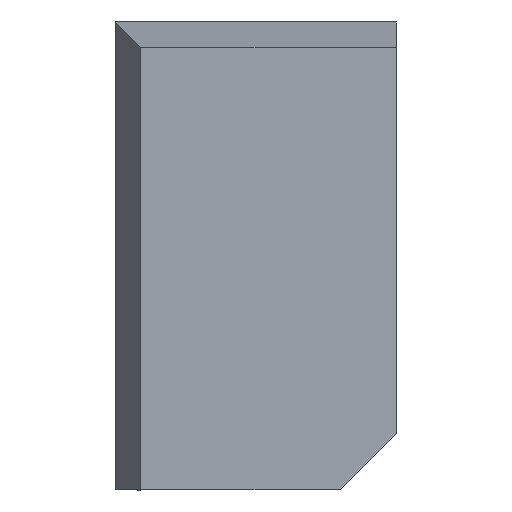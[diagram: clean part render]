
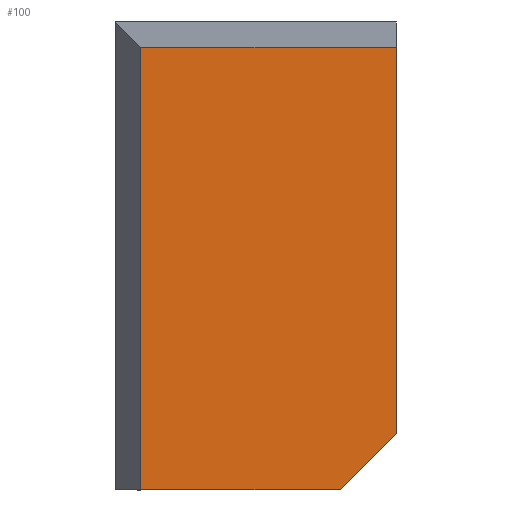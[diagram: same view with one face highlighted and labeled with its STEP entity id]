
A CAD part, left-side view. The second image highlights one B-rep face of the part: STEP entity #100.
In plain terms, the highlighted face is a extrusion surface.
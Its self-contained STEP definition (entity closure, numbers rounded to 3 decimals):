
#54=CARTESIAN_POINT('Control Point',(0.,0.,0.)) ;
#55=CARTESIAN_POINT('Control Point',(0.,0.,23.66)) ;
#59=CARTESIAN_POINT('Line Origine',(0.,6.83,23.66)) ;
#63=CARTESIAN_POINT('Vertex',(0.,0.,23.66)) ;
#65=CARTESIAN_POINT('Vertex',(0.,13.66,23.66)) ;
#68=CARTESIAN_POINT('Line Origine',(0.,13.66,11.83)) ;
#72=CARTESIAN_POINT('Vertex',(0.,13.66,0.)) ;
#75=CARTESIAN_POINT('Line Origine',(0.,6.83,0.)) ;
#79=CARTESIAN_POINT('Vertex',(0.,3.,0.)) ;
#83=CARTESIAN_POINT('Control Point',(0.,3.,0.)) ;
#84=CARTESIAN_POINT('Control Point',(0.,0.,3.)) ;
#85=CARTESIAN_POINT('Vertex',(0.,0.,3.)) ;
#88=CARTESIAN_POINT('Line Origine',(0.,0.,11.83)) ;
#56=DIRECTION('Vector Direction',(0.,1.,0.)) ;
#60=DIRECTION('Vector Direction',(0.,1.,0.)) ;
#69=DIRECTION('Vector Direction',(0.,0.,1.)) ;
#76=DIRECTION('Vector Direction',(0.,1.,0.)) ;
#89=DIRECTION('Vector Direction',(0.,0.,1.)) ;
#94=ORIENTED_EDGE('',*,*,#67,.T.) ;
#95=ORIENTED_EDGE('',*,*,#74,.T.) ;
#96=ORIENTED_EDGE('',*,*,#81,.T.) ;
#97=ORIENTED_EDGE('',*,*,#87,.T.) ;
#98=ORIENTED_EDGE('',*,*,#92,.T.) ;
#57=VECTOR('Extrusion Surface Vector',#56,1.) ;
#61=VECTOR('Line Direction',#60,1.) ;
#70=VECTOR('Line Direction',#69,1.) ;
#77=VECTOR('Line Direction',#76,1.) ;
#90=VECTOR('Line Direction',#89,1.) ;
#100=ADVANCED_FACE('Superficie.1',(#99),#58,.T.) ;
#53=B_SPLINE_CURVE_WITH_KNOTS('',1,(#54,#55),.UNSPECIFIED.,.F.,.U.,(2,2),(-11.83,11.83),.UNSPECIFIED.) ;
#82=B_SPLINE_CURVE_WITH_KNOTS('',1,(#83,#84),.UNSPECIFIED.,.F.,.U.,(2,2),(-2.121,2.121),.UNSPECIFIED.) ;
#67=EDGE_CURVE('',#64,#66,#62,.T.) ;
#74=EDGE_CURVE('',#66,#73,#71,.F.) ;
#81=EDGE_CURVE('',#73,#80,#78,.F.) ;
#87=EDGE_CURVE('',#80,#86,#82,.T.) ;
#92=EDGE_CURVE('',#86,#64,#91,.T.) ;
#93=EDGE_LOOP('',(#94,#95,#96,#97,#98)) ;
#99=FACE_OUTER_BOUND('',#93,.T.) ;
#62=LINE('Line',#59,#61) ;
#71=LINE('Line',#68,#70) ;
#78=LINE('Line',#75,#77) ;
#91=LINE('Line',#88,#90) ;
#58=SURFACE_OF_LINEAR_EXTRUSION('generated tabulated cylinder',#53,#57) ;
#64=VERTEX_POINT('',#63) ;
#66=VERTEX_POINT('',#65) ;
#73=VERTEX_POINT('',#72) ;
#80=VERTEX_POINT('',#79) ;
#86=VERTEX_POINT('',#85) ;
